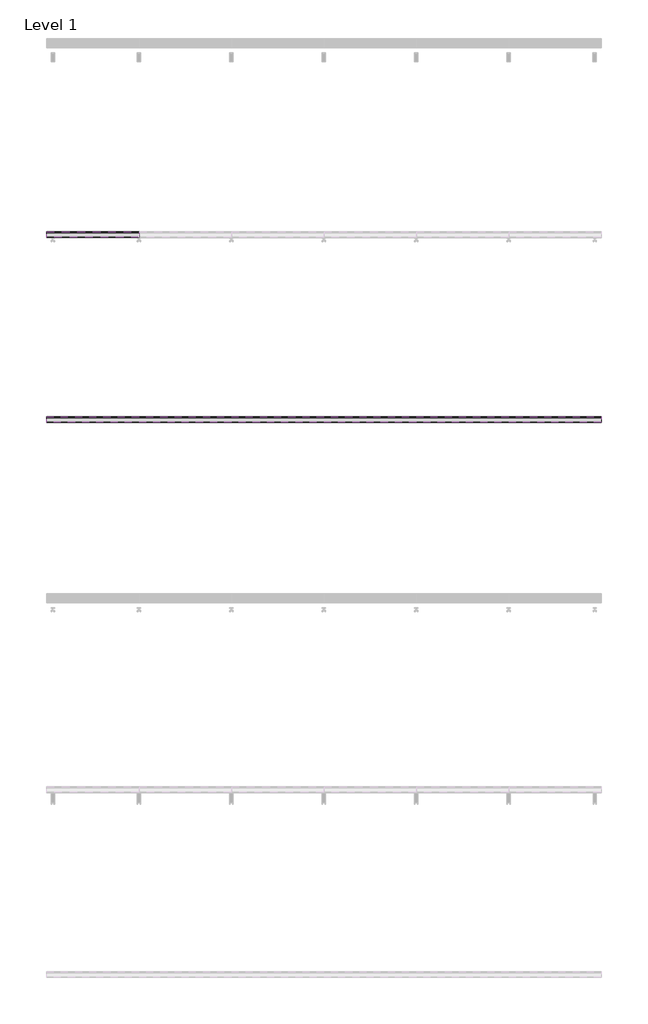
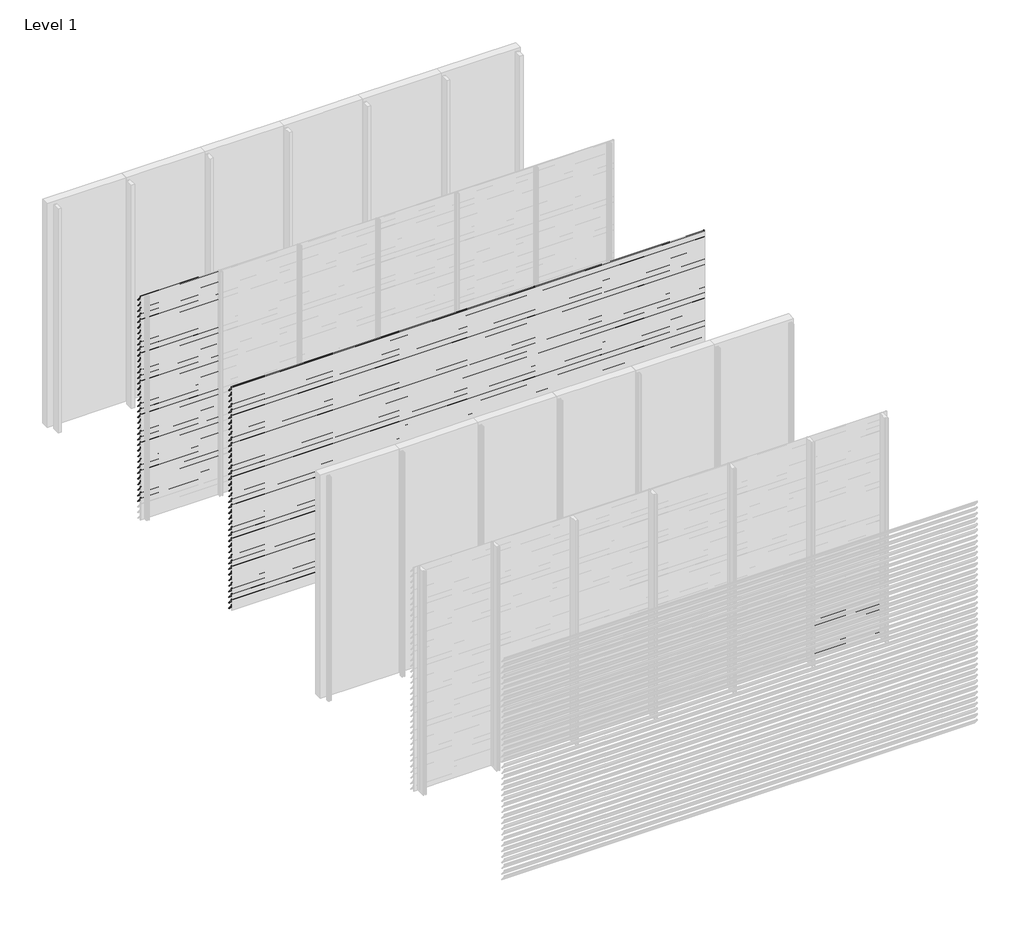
# One storey, part 10 of 35: 86 proxies.
"""IFC4 building model written with IfcOpenShell, lengths in millimetres."""

from ifc_helpers import new_model, si_unit, frame, origin, place, context, project, spatial, polyline, outline, extrude, element, save

model = new_model("IFC4")

# Units and contexts
model_context = context("Model", 3, world=origin())
ifc_project = project(units=[si_unit("LENGTHUNIT", "METRE", prefix="MILLI")], contexts=[model_context])

# Site, building, storey
site = spatial("IfcSite", under=ifc_project)
building = spatial("IfcBuilding", under=site)
storey = spatial("IfcBuildingStorey", under=building, Name="Level 1", Elevation=0.0)

# Proxies
placement = place(None, origin())
element("IfcBuildingElementProxy", 1, Name="Wall Sweeps", at=placement, inside=storey, context=model_context, shape_type="SweptSolid", body=[
    extrude(outline(polyline([(-41996.5, 3000.0), (-41996.5, 2985.5463701), (-41934.5, 2913.9330051), (-41934.5, 2910.4), (-41936.0, 2910.4), (-41936.0, 2913.3738975), (-41998.0, 2984.9872626), (-41998.0, 3000.0), (-41996.5, 3000.0)])), frame((0.0, 0.0, 0.0), z_axis=(1.0, 0.0, 0.0), x_axis=(0.0, 1.0, 0.0)), (0.0, 0.0, 1.0), 1000.0),
])
element("IfcBuildingElementProxy", 2, Name="Wall Sweeps", at=placement, inside=storey, context=model_context, shape_type="SweptSolid", body=[
    extrude(outline(polyline([(-41996.5, 2925.0), (-41996.5, 2910.5463701), (-41934.5, 2838.9330051), (-41934.5, 2835.4), (-41936.0, 2835.4), (-41936.0, 2838.3738975), (-41998.0, 2909.9872626), (-41998.0, 2925.0), (-41996.5, 2925.0)])), frame((0.0, 0.0, 0.0), z_axis=(1.0, 0.0, 0.0), x_axis=(0.0, 1.0, 0.0)), (0.0, 0.0, 1.0), 1000.0),
])
element("IfcBuildingElementProxy", 3, Name="Wall Sweeps", at=placement, inside=storey, context=model_context, shape_type="SweptSolid", body=[
    extrude(outline(polyline([(-41996.5, 2850.0), (-41996.5, 2835.5463701), (-41934.5, 2763.9330051), (-41934.5, 2760.4), (-41936.0, 2760.4), (-41936.0, 2763.3738975), (-41998.0, 2834.9872626), (-41998.0, 2850.0), (-41996.5, 2850.0)])), frame((0.0, 0.0, 0.0), z_axis=(1.0, 0.0, 0.0), x_axis=(0.0, 1.0, 0.0)), (0.0, 0.0, 1.0), 1000.0),
])
element("IfcBuildingElementProxy", 4, Name="Wall Sweeps", at=placement, inside=storey, context=model_context, shape_type="SweptSolid", body=[
    extrude(outline(polyline([(-41996.5, 2775.0), (-41996.5, 2760.5463701), (-41934.5, 2688.9330051), (-41934.5, 2685.4), (-41936.0, 2685.4), (-41936.0, 2688.3738975), (-41998.0, 2759.9872626), (-41998.0, 2775.0), (-41996.5, 2775.0)])), frame((0.0, 0.0, 0.0), z_axis=(1.0, 0.0, 0.0), x_axis=(0.0, 1.0, 0.0)), (0.0, 0.0, 1.0), 1000.0),
])
element("IfcBuildingElementProxy", 5, Name="Wall Sweeps", at=placement, inside=storey, context=model_context, shape_type="SweptSolid", body=[
    extrude(outline(polyline([(-41996.5, 2700.0), (-41996.5, 2685.5463701), (-41934.5, 2613.9330051), (-41934.5, 2610.4), (-41936.0, 2610.4), (-41936.0, 2613.3738975), (-41998.0, 2684.9872626), (-41998.0, 2700.0), (-41996.5, 2700.0)])), frame((0.0, 0.0, 0.0), z_axis=(1.0, 0.0, 0.0), x_axis=(0.0, 1.0, 0.0)), (0.0, 0.0, 1.0), 1000.0),
])
element("IfcBuildingElementProxy", 6, Name="Wall Sweeps", at=placement, inside=storey, context=model_context, shape_type="SweptSolid", body=[
    extrude(outline(polyline([(-41996.5, 2625.0), (-41996.5, 2610.5463701), (-41934.5, 2538.9330051), (-41934.5, 2535.4), (-41936.0, 2535.4), (-41936.0, 2538.3738975), (-41998.0, 2609.9872626), (-41998.0, 2625.0), (-41996.5, 2625.0)])), frame((0.0, 0.0, 0.0), z_axis=(1.0, 0.0, 0.0), x_axis=(0.0, 1.0, 0.0)), (0.0, 0.0, 1.0), 1000.0),
])
element("IfcBuildingElementProxy", 7, Name="Wall Sweeps", at=placement, inside=storey, context=model_context, shape_type="SweptSolid", body=[
    extrude(outline(polyline([(-41996.5, 2550.0), (-41996.5, 2535.5463701), (-41934.5, 2463.9330051), (-41934.5, 2460.4), (-41936.0, 2460.4), (-41936.0, 2463.3738975), (-41998.0, 2534.9872626), (-41998.0, 2550.0), (-41996.5, 2550.0)])), frame((0.0, 0.0, 0.0), z_axis=(1.0, 0.0, 0.0), x_axis=(0.0, 1.0, 0.0)), (0.0, 0.0, 1.0), 1000.0),
])
element("IfcBuildingElementProxy", 8, Name="Wall Sweeps", at=placement, inside=storey, context=model_context, shape_type="SweptSolid", body=[
    extrude(outline(polyline([(-41996.5, 2475.0), (-41996.5, 2460.5463701), (-41934.5, 2388.9330051), (-41934.5, 2385.4), (-41936.0, 2385.4), (-41936.0, 2388.3738975), (-41998.0, 2459.9872626), (-41998.0, 2475.0), (-41996.5, 2475.0)])), frame((0.0, 0.0, 0.0), z_axis=(1.0, 0.0, 0.0), x_axis=(0.0, 1.0, 0.0)), (0.0, 0.0, 1.0), 1000.0),
])
element("IfcBuildingElementProxy", 9, Name="Wall Sweeps", at=placement, inside=storey, context=model_context, shape_type="SweptSolid", body=[
    extrude(outline(polyline([(-41996.5, 2400.0), (-41996.5, 2385.5463701), (-41934.5, 2313.9330051), (-41934.5, 2310.4), (-41936.0, 2310.4), (-41936.0, 2313.3738975), (-41998.0, 2384.9872626), (-41998.0, 2400.0), (-41996.5, 2400.0)])), frame((0.0, 0.0, 0.0), z_axis=(1.0, 0.0, 0.0), x_axis=(0.0, 1.0, 0.0)), (0.0, 0.0, 1.0), 1000.0),
])
element("IfcBuildingElementProxy", 10, Name="Wall Sweeps", at=placement, inside=storey, context=model_context, shape_type="SweptSolid", body=[
    extrude(outline(polyline([(-41996.5, 2325.0), (-41996.5, 2310.5463701), (-41934.5, 2238.9330051), (-41934.5, 2235.4), (-41936.0, 2235.4), (-41936.0, 2238.3738975), (-41998.0, 2309.9872626), (-41998.0, 2325.0), (-41996.5, 2325.0)])), frame((0.0, 0.0, 0.0), z_axis=(1.0, 0.0, 0.0), x_axis=(0.0, 1.0, 0.0)), (0.0, 0.0, 1.0), 1000.0),
])
element("IfcBuildingElementProxy", 11, Name="Wall Sweeps", at=placement, inside=storey, context=model_context, shape_type="SweptSolid", body=[
    extrude(outline(polyline([(-41996.5, 2250.0), (-41996.5, 2235.5463701), (-41934.5, 2163.9330051), (-41934.5, 2160.4), (-41936.0, 2160.4), (-41936.0, 2163.3738975), (-41998.0, 2234.9872626), (-41998.0, 2250.0), (-41996.5, 2250.0)])), frame((0.0, 0.0, 0.0), z_axis=(1.0, 0.0, 0.0), x_axis=(0.0, 1.0, 0.0)), (0.0, 0.0, 1.0), 1000.0),
])
element("IfcBuildingElementProxy", 12, Name="Wall Sweeps", at=placement, inside=storey, context=model_context, shape_type="SweptSolid", body=[
    extrude(outline(polyline([(-41996.5, 2175.0), (-41996.5, 2160.5463701), (-41934.5, 2088.9330051), (-41934.5, 2085.4), (-41936.0, 2085.4), (-41936.0, 2088.3738975), (-41998.0, 2159.9872626), (-41998.0, 2175.0), (-41996.5, 2175.0)])), frame((0.0, 0.0, 0.0), z_axis=(1.0, 0.0, 0.0), x_axis=(0.0, 1.0, 0.0)), (0.0, 0.0, 1.0), 1000.0),
])
element("IfcBuildingElementProxy", 13, Name="Wall Sweeps", at=placement, inside=storey, context=model_context, shape_type="SweptSolid", body=[
    extrude(outline(polyline([(-41996.5, 2100.0), (-41996.5, 2085.5463701), (-41934.5, 2013.9330051), (-41934.5, 2010.4), (-41936.0, 2010.4), (-41936.0, 2013.3738975), (-41998.0, 2084.9872626), (-41998.0, 2100.0), (-41996.5, 2100.0)])), frame((0.0, 0.0, 0.0), z_axis=(1.0, 0.0, 0.0), x_axis=(0.0, 1.0, 0.0)), (0.0, 0.0, 1.0), 1000.0),
])
element("IfcBuildingElementProxy", 14, Name="Wall Sweeps", at=placement, inside=storey, context=model_context, shape_type="SweptSolid", body=[
    extrude(outline(polyline([(-41996.5, 2025.0), (-41996.5, 2010.5463701), (-41934.5, 1938.9330051), (-41934.5, 1935.4), (-41936.0, 1935.4), (-41936.0, 1938.3738975), (-41998.0, 2009.9872626), (-41998.0, 2025.0), (-41996.5, 2025.0)])), frame((0.0, 0.0, 0.0), z_axis=(1.0, 0.0, 0.0), x_axis=(0.0, 1.0, 0.0)), (0.0, 0.0, 1.0), 1000.0),
])
element("IfcBuildingElementProxy", 15, Name="Wall Sweeps", at=placement, inside=storey, context=model_context, shape_type="SweptSolid", body=[
    extrude(outline(polyline([(-41996.5, 1950.0), (-41996.5, 1935.5463701), (-41934.5, 1863.9330051), (-41934.5, 1860.4), (-41936.0, 1860.4), (-41936.0, 1863.3738975), (-41998.0, 1934.9872626), (-41998.0, 1950.0), (-41996.5, 1950.0)])), frame((0.0, 0.0, 0.0), z_axis=(1.0, 0.0, 0.0), x_axis=(0.0, 1.0, 0.0)), (0.0, 0.0, 1.0), 1000.0),
])
element("IfcBuildingElementProxy", 16, Name="Wall Sweeps", at=placement, inside=storey, context=model_context, shape_type="SweptSolid", body=[
    extrude(outline(polyline([(-41996.5, 1875.0), (-41996.5, 1860.5463701), (-41934.5, 1788.9330051), (-41934.5, 1785.4), (-41936.0, 1785.4), (-41936.0, 1788.3738975), (-41998.0, 1859.9872626), (-41998.0, 1875.0), (-41996.5, 1875.0)])), frame((0.0, 0.0, 0.0), z_axis=(1.0, 0.0, 0.0), x_axis=(0.0, 1.0, 0.0)), (0.0, 0.0, 1.0), 1000.0),
])
element("IfcBuildingElementProxy", 17, Name="Wall Sweeps", at=placement, inside=storey, context=model_context, shape_type="SweptSolid", body=[
    extrude(outline(polyline([(-41996.5, 1800.0), (-41996.5, 1785.5463701), (-41934.5, 1713.9330051), (-41934.5, 1710.4), (-41936.0, 1710.4), (-41936.0, 1713.3738975), (-41998.0, 1784.9872626), (-41998.0, 1800.0), (-41996.5, 1800.0)])), frame((0.0, 0.0, 0.0), z_axis=(1.0, 0.0, 0.0), x_axis=(0.0, 1.0, 0.0)), (0.0, 0.0, 1.0), 1000.0),
])
element("IfcBuildingElementProxy", 18, Name="Wall Sweeps", at=placement, inside=storey, context=model_context, shape_type="SweptSolid", body=[
    extrude(outline(polyline([(-41996.5, 1725.0), (-41996.5, 1710.5463701), (-41934.5, 1638.9330051), (-41934.5, 1635.4), (-41936.0, 1635.4), (-41936.0, 1638.3738975), (-41998.0, 1709.9872626), (-41998.0, 1725.0), (-41996.5, 1725.0)])), frame((0.0, 0.0, 0.0), z_axis=(1.0, 0.0, 0.0), x_axis=(0.0, 1.0, 0.0)), (0.0, 0.0, 1.0), 1000.0),
])
element("IfcBuildingElementProxy", 19, Name="Wall Sweeps", at=placement, inside=storey, context=model_context, shape_type="SweptSolid", body=[
    extrude(outline(polyline([(-41996.5, 1650.0), (-41996.5, 1635.5463701), (-41934.5, 1563.9330051), (-41934.5, 1560.4), (-41936.0, 1560.4), (-41936.0, 1563.3738975), (-41998.0, 1634.9872626), (-41998.0, 1650.0), (-41996.5, 1650.0)])), frame((0.0, 0.0, 0.0), z_axis=(1.0, 0.0, 0.0), x_axis=(0.0, 1.0, 0.0)), (0.0, 0.0, 1.0), 1000.0),
])
element("IfcBuildingElementProxy", 20, Name="Wall Sweeps", at=placement, inside=storey, context=model_context, shape_type="SweptSolid", body=[
    extrude(outline(polyline([(-41996.5, 1575.0), (-41996.5, 1560.5463701), (-41934.5, 1488.9330051), (-41934.5, 1485.4), (-41936.0, 1485.4), (-41936.0, 1488.3738975), (-41998.0, 1559.9872626), (-41998.0, 1575.0), (-41996.5, 1575.0)])), frame((0.0, 0.0, 0.0), z_axis=(1.0, 0.0, 0.0), x_axis=(0.0, 1.0, 0.0)), (0.0, 0.0, 1.0), 1000.0),
])
element("IfcBuildingElementProxy", 21, Name="Wall Sweeps", at=placement, inside=storey, context=model_context, shape_type="SweptSolid", body=[
    extrude(outline(polyline([(-41996.5, 1500.0), (-41996.5, 1485.5463701), (-41934.5, 1413.9330051), (-41934.5, 1410.4), (-41936.0, 1410.4), (-41936.0, 1413.3738975), (-41998.0, 1484.9872626), (-41998.0, 1500.0), (-41996.5, 1500.0)])), frame((0.0, 0.0, 0.0), z_axis=(1.0, 0.0, 0.0), x_axis=(0.0, 1.0, 0.0)), (0.0, 0.0, 1.0), 1000.0),
])
element("IfcBuildingElementProxy", 22, Name="Wall Sweeps", at=placement, inside=storey, context=model_context, shape_type="SweptSolid", body=[
    extrude(outline(polyline([(-41996.5, 1425.0), (-41996.5, 1410.5463701), (-41934.5, 1338.9330051), (-41934.5, 1335.4), (-41936.0, 1335.4), (-41936.0, 1338.3738975), (-41998.0, 1409.9872626), (-41998.0, 1425.0), (-41996.5, 1425.0)])), frame((0.0, 0.0, 0.0), z_axis=(1.0, 0.0, 0.0), x_axis=(0.0, 1.0, 0.0)), (0.0, 0.0, 1.0), 1000.0),
])
element("IfcBuildingElementProxy", 23, Name="Wall Sweeps", at=placement, inside=storey, context=model_context, shape_type="SweptSolid", body=[
    extrude(outline(polyline([(-41996.5, 1350.0), (-41996.5, 1335.5463701), (-41934.5, 1263.9330051), (-41934.5, 1260.4), (-41936.0, 1260.4), (-41936.0, 1263.3738975), (-41998.0, 1334.9872626), (-41998.0, 1350.0), (-41996.5, 1350.0)])), frame((0.0, 0.0, 0.0), z_axis=(1.0, 0.0, 0.0), x_axis=(0.0, 1.0, 0.0)), (0.0, 0.0, 1.0), 1000.0),
])
element("IfcBuildingElementProxy", 24, Name="Wall Sweeps", at=placement, inside=storey, context=model_context, shape_type="SweptSolid", body=[
    extrude(outline(polyline([(-41996.5, 1275.0), (-41996.5, 1260.5463701), (-41934.5, 1188.9330051), (-41934.5, 1185.4), (-41936.0, 1185.4), (-41936.0, 1188.3738975), (-41998.0, 1259.9872626), (-41998.0, 1275.0), (-41996.5, 1275.0)])), frame((0.0, 0.0, 0.0), z_axis=(1.0, 0.0, 0.0), x_axis=(0.0, 1.0, 0.0)), (0.0, 0.0, 1.0), 1000.0),
])
element("IfcBuildingElementProxy", 25, Name="Wall Sweeps", at=placement, inside=storey, context=model_context, shape_type="SweptSolid", body=[
    extrude(outline(polyline([(-41996.5, 1200.0), (-41996.5, 1185.5463701), (-41934.5, 1113.9330051), (-41934.5, 1110.4), (-41936.0, 1110.4), (-41936.0, 1113.3738975), (-41998.0, 1184.9872626), (-41998.0, 1200.0), (-41996.5, 1200.0)])), frame((0.0, 0.0, 0.0), z_axis=(1.0, 0.0, 0.0), x_axis=(0.0, 1.0, 0.0)), (0.0, 0.0, 1.0), 1000.0),
])
element("IfcBuildingElementProxy", 26, Name="Wall Sweeps", at=placement, inside=storey, context=model_context, shape_type="SweptSolid", body=[
    extrude(outline(polyline([(-41996.5, 1125.0), (-41996.5, 1110.5463701), (-41934.5, 1038.9330051), (-41934.5, 1035.4), (-41936.0, 1035.4), (-41936.0, 1038.3738975), (-41998.0, 1109.9872626), (-41998.0, 1125.0), (-41996.5, 1125.0)])), frame((0.0, 0.0, 0.0), z_axis=(1.0, 0.0, 0.0), x_axis=(0.0, 1.0, 0.0)), (0.0, 0.0, 1.0), 1000.0),
])
element("IfcBuildingElementProxy", 27, Name="Wall Sweeps", at=placement, inside=storey, context=model_context, shape_type="SweptSolid", body=[
    extrude(outline(polyline([(-41996.5, 1050.0), (-41996.5, 1035.5463701), (-41934.5, 963.9330051), (-41934.5, 960.4), (-41936.0, 960.4), (-41936.0, 963.3738975), (-41998.0, 1034.9872626), (-41998.0, 1050.0), (-41996.5, 1050.0)])), frame((0.0, 0.0, 0.0), z_axis=(1.0, 0.0, 0.0), x_axis=(0.0, 1.0, 0.0)), (0.0, 0.0, 1.0), 1000.0),
])
element("IfcBuildingElementProxy", 28, Name="Wall Sweeps", at=placement, inside=storey, context=model_context, shape_type="SweptSolid", body=[
    extrude(outline(polyline([(-41996.5, 975.0), (-41996.5, 960.5463701), (-41934.5, 888.9330051), (-41934.5, 885.4), (-41936.0, 885.4), (-41936.0, 888.3738975), (-41998.0, 959.9872626), (-41998.0, 975.0), (-41996.5, 975.0)])), frame((0.0, 0.0, 0.0), z_axis=(1.0, 0.0, 0.0), x_axis=(0.0, 1.0, 0.0)), (0.0, 0.0, 1.0), 1000.0),
])
element("IfcBuildingElementProxy", 29, Name="Wall Sweeps", at=placement, inside=storey, context=model_context, shape_type="SweptSolid", body=[
    extrude(outline(polyline([(-41996.5, 900.0), (-41996.5, 885.5463701), (-41934.5, 813.9330051), (-41934.5, 810.4), (-41936.0, 810.4), (-41936.0, 813.3738975), (-41998.0, 884.9872626), (-41998.0, 900.0), (-41996.5, 900.0)])), frame((0.0, 0.0, 0.0), z_axis=(1.0, 0.0, 0.0), x_axis=(0.0, 1.0, 0.0)), (0.0, 0.0, 1.0), 1000.0),
])
element("IfcBuildingElementProxy", 30, Name="Wall Sweeps", at=placement, inside=storey, context=model_context, shape_type="SweptSolid", body=[
    extrude(outline(polyline([(-41996.5, 825.0), (-41996.5, 810.5463701), (-41934.5, 738.9330051), (-41934.5, 735.4), (-41936.0, 735.4), (-41936.0, 738.3738975), (-41998.0, 809.9872626), (-41998.0, 825.0), (-41996.5, 825.0)])), frame((0.0, 0.0, 0.0), z_axis=(1.0, 0.0, 0.0), x_axis=(0.0, 1.0, 0.0)), (0.0, 0.0, 1.0), 1000.0),
])
element("IfcBuildingElementProxy", 31, Name="Wall Sweeps", at=placement, inside=storey, context=model_context, shape_type="SweptSolid", body=[
    extrude(outline(polyline([(-41996.5, 750.0), (-41996.5, 735.5463701), (-41934.5, 663.9330051), (-41934.5, 660.4), (-41936.0, 660.4), (-41936.0, 663.3738975), (-41998.0, 734.9872626), (-41998.0, 750.0), (-41996.5, 750.0)])), frame((0.0, 0.0, 0.0), z_axis=(1.0, 0.0, 0.0), x_axis=(0.0, 1.0, 0.0)), (0.0, 0.0, 1.0), 1000.0),
])
element("IfcBuildingElementProxy", 32, Name="Wall Sweeps", at=placement, inside=storey, context=model_context, shape_type="SweptSolid", body=[
    extrude(outline(polyline([(-41996.5, 675.0), (-41996.5, 660.5463701), (-41934.5, 588.9330051), (-41934.5, 585.4), (-41936.0, 585.4), (-41936.0, 588.3738975), (-41998.0, 659.9872626), (-41998.0, 675.0), (-41996.5, 675.0)])), frame((0.0, 0.0, 0.0), z_axis=(1.0, 0.0, 0.0), x_axis=(0.0, 1.0, 0.0)), (0.0, 0.0, 1.0), 1000.0),
])
element("IfcBuildingElementProxy", 33, Name="Wall Sweeps", at=placement, inside=storey, context=model_context, shape_type="SweptSolid", body=[
    extrude(outline(polyline([(-41996.5, 600.0), (-41996.5, 585.5463701), (-41934.5, 513.9330051), (-41934.5, 510.4), (-41936.0, 510.4), (-41936.0, 513.3738975), (-41998.0, 584.9872626), (-41998.0, 600.0), (-41996.5, 600.0)])), frame((0.0, 0.0, 0.0), z_axis=(1.0, 0.0, 0.0), x_axis=(0.0, 1.0, 0.0)), (0.0, 0.0, 1.0), 1000.0),
])
element("IfcBuildingElementProxy", 34, Name="Wall Sweeps", at=placement, inside=storey, context=model_context, shape_type="SweptSolid", body=[
    extrude(outline(polyline([(-41996.5, 525.0), (-41996.5, 510.5463701), (-41934.5, 438.9330051), (-41934.5, 435.4), (-41936.0, 435.4), (-41936.0, 438.3738975), (-41998.0, 509.9872626), (-41998.0, 525.0), (-41996.5, 525.0)])), frame((0.0, 0.0, 0.0), z_axis=(1.0, 0.0, 0.0), x_axis=(0.0, 1.0, 0.0)), (0.0, 0.0, 1.0), 1000.0),
])
element("IfcBuildingElementProxy", 35, Name="Wall Sweeps", at=placement, inside=storey, context=model_context, shape_type="SweptSolid", body=[
    extrude(outline(polyline([(-41996.5, 450.0), (-41996.5, 435.5463701), (-41934.5, 363.9330051), (-41934.5, 360.4), (-41936.0, 360.4), (-41936.0, 363.3738975), (-41998.0, 434.9872626), (-41998.0, 450.0), (-41996.5, 450.0)])), frame((0.0, 0.0, 0.0), z_axis=(1.0, 0.0, 0.0), x_axis=(0.0, 1.0, 0.0)), (0.0, 0.0, 1.0), 1000.0),
])
element("IfcBuildingElementProxy", 36, Name="Wall Sweeps", at=placement, inside=storey, context=model_context, shape_type="SweptSolid", body=[
    extrude(outline(polyline([(-41996.5, 375.0), (-41996.5, 360.5463701), (-41934.5, 288.9330051), (-41934.5, 285.4), (-41936.0, 285.4), (-41936.0, 288.3738975), (-41998.0, 359.9872626), (-41998.0, 375.0), (-41996.5, 375.0)])), frame((0.0, 0.0, 0.0), z_axis=(1.0, 0.0, 0.0), x_axis=(0.0, 1.0, 0.0)), (0.0, 0.0, 1.0), 1000.0),
])
element("IfcBuildingElementProxy", 37, Name="Wall Sweeps", at=placement, inside=storey, context=model_context, shape_type="SweptSolid", body=[
    extrude(outline(polyline([(-41996.5, 300.0), (-41996.5, 285.5463701), (-41934.5, 213.9330051), (-41934.5, 210.4), (-41936.0, 210.4), (-41936.0, 213.3738975), (-41998.0, 284.9872626), (-41998.0, 300.0), (-41996.5, 300.0)])), frame((0.0, 0.0, 0.0), z_axis=(1.0, 0.0, 0.0), x_axis=(0.0, 1.0, 0.0)), (0.0, 0.0, 1.0), 1000.0),
])
element("IfcBuildingElementProxy", 38, Name="Wall Sweeps", at=placement, inside=storey, context=model_context, shape_type="SweptSolid", body=[
    extrude(outline(polyline([(-43996.5, 3000.0), (-43996.5, 2985.5463701), (-43934.5, 2913.9330051), (-43934.5, 2910.4), (-43936.0, 2910.4), (-43936.0, 2913.3738975), (-43998.0, 2984.9872626), (-43998.0, 3000.0), (-43996.5, 3000.0)])), frame((0.0, 0.0, 0.0), z_axis=(1.0, 0.0, 0.0), x_axis=(0.0, 1.0, 0.0)), (0.0, 0.0, 1.0), 6000.0),
])
element("IfcBuildingElementProxy", 39, Name="Wall Sweeps", at=placement, inside=storey, context=model_context, shape_type="SweptSolid", body=[
    extrude(outline(polyline([(-43996.5, 2925.0), (-43996.5, 2910.5463701), (-43934.5, 2838.9330051), (-43934.5, 2835.4), (-43936.0, 2835.4), (-43936.0, 2838.3738975), (-43998.0, 2909.9872626), (-43998.0, 2925.0), (-43996.5, 2925.0)])), frame((0.0, 0.0, 0.0), z_axis=(1.0, 0.0, 0.0), x_axis=(0.0, 1.0, 0.0)), (0.0, 0.0, 1.0), 6000.0),
])
element("IfcBuildingElementProxy", 40, Name="Wall Sweeps", at=placement, inside=storey, context=model_context, shape_type="SweptSolid", body=[
    extrude(outline(polyline([(-43996.5, 2850.0), (-43996.5, 2835.5463701), (-43934.5, 2763.9330051), (-43934.5, 2760.4), (-43936.0, 2760.4), (-43936.0, 2763.3738975), (-43998.0, 2834.9872626), (-43998.0, 2850.0), (-43996.5, 2850.0)])), frame((0.0, 0.0, 0.0), z_axis=(1.0, 0.0, 0.0), x_axis=(0.0, 1.0, 0.0)), (0.0, 0.0, 1.0), 6000.0),
])
element("IfcBuildingElementProxy", 41, Name="Wall Sweeps", at=placement, inside=storey, context=model_context, shape_type="SweptSolid", body=[
    extrude(outline(polyline([(-43996.5, 2775.0), (-43996.5, 2760.5463701), (-43934.5, 2688.9330051), (-43934.5, 2685.4), (-43936.0, 2685.4), (-43936.0, 2688.3738975), (-43998.0, 2759.9872626), (-43998.0, 2775.0), (-43996.5, 2775.0)])), frame((0.0, 0.0, 0.0), z_axis=(1.0, 0.0, 0.0), x_axis=(0.0, 1.0, 0.0)), (0.0, 0.0, 1.0), 6000.0),
])
element("IfcBuildingElementProxy", 42, Name="Wall Sweeps", at=placement, inside=storey, context=model_context, shape_type="SweptSolid", body=[
    extrude(outline(polyline([(-43996.5, 2700.0), (-43996.5, 2685.5463701), (-43934.5, 2613.9330051), (-43934.5, 2610.4), (-43936.0, 2610.4), (-43936.0, 2613.3738975), (-43998.0, 2684.9872626), (-43998.0, 2700.0), (-43996.5, 2700.0)])), frame((0.0, 0.0, 0.0), z_axis=(1.0, 0.0, 0.0), x_axis=(0.0, 1.0, 0.0)), (0.0, 0.0, 1.0), 6000.0),
])
element("IfcBuildingElementProxy", 43, Name="Wall Sweeps", at=placement, inside=storey, context=model_context, shape_type="SweptSolid", body=[
    extrude(outline(polyline([(-43996.5, 2625.0), (-43996.5, 2610.5463701), (-43934.5, 2538.9330051), (-43934.5, 2535.4), (-43936.0, 2535.4), (-43936.0, 2538.3738975), (-43998.0, 2609.9872626), (-43998.0, 2625.0), (-43996.5, 2625.0)])), frame((0.0, 0.0, 0.0), z_axis=(1.0, 0.0, 0.0), x_axis=(0.0, 1.0, 0.0)), (0.0, 0.0, 1.0), 6000.0),
])
element("IfcBuildingElementProxy", 44, Name="Wall Sweeps", at=placement, inside=storey, context=model_context, shape_type="SweptSolid", body=[
    extrude(outline(polyline([(-43996.5, 2550.0), (-43996.5, 2535.5463701), (-43934.5, 2463.9330051), (-43934.5, 2460.4), (-43936.0, 2460.4), (-43936.0, 2463.3738975), (-43998.0, 2534.9872626), (-43998.0, 2550.0), (-43996.5, 2550.0)])), frame((0.0, 0.0, 0.0), z_axis=(1.0, 0.0, 0.0), x_axis=(0.0, 1.0, 0.0)), (0.0, 0.0, 1.0), 6000.0),
])
element("IfcBuildingElementProxy", 45, Name="Wall Sweeps", at=placement, inside=storey, context=model_context, shape_type="SweptSolid", body=[
    extrude(outline(polyline([(-43996.5, 2475.0), (-43996.5, 2460.5463701), (-43934.5, 2388.9330051), (-43934.5, 2385.4), (-43936.0, 2385.4), (-43936.0, 2388.3738975), (-43998.0, 2459.9872626), (-43998.0, 2475.0), (-43996.5, 2475.0)])), frame((0.0, 0.0, 0.0), z_axis=(1.0, 0.0, 0.0), x_axis=(0.0, 1.0, 0.0)), (0.0, 0.0, 1.0), 6000.0),
])
element("IfcBuildingElementProxy", 46, Name="Wall Sweeps", at=placement, inside=storey, context=model_context, shape_type="SweptSolid", body=[
    extrude(outline(polyline([(-43996.5, 2400.0), (-43996.5, 2385.5463701), (-43934.5, 2313.9330051), (-43934.5, 2310.4), (-43936.0, 2310.4), (-43936.0, 2313.3738975), (-43998.0, 2384.9872626), (-43998.0, 2400.0), (-43996.5, 2400.0)])), frame((0.0, 0.0, 0.0), z_axis=(1.0, 0.0, 0.0), x_axis=(0.0, 1.0, 0.0)), (0.0, 0.0, 1.0), 6000.0),
])
element("IfcBuildingElementProxy", 47, Name="Wall Sweeps", at=placement, inside=storey, context=model_context, shape_type="SweptSolid", body=[
    extrude(outline(polyline([(-43996.5, 2325.0), (-43996.5, 2310.5463701), (-43934.5, 2238.9330051), (-43934.5, 2235.4), (-43936.0, 2235.4), (-43936.0, 2238.3738975), (-43998.0, 2309.9872626), (-43998.0, 2325.0), (-43996.5, 2325.0)])), frame((0.0, 0.0, 0.0), z_axis=(1.0, 0.0, 0.0), x_axis=(0.0, 1.0, 0.0)), (0.0, 0.0, 1.0), 6000.0),
])
element("IfcBuildingElementProxy", 48, Name="Wall Sweeps", at=placement, inside=storey, context=model_context, shape_type="SweptSolid", body=[
    extrude(outline(polyline([(-43996.5, 2250.0), (-43996.5, 2235.5463701), (-43934.5, 2163.9330051), (-43934.5, 2160.4), (-43936.0, 2160.4), (-43936.0, 2163.3738975), (-43998.0, 2234.9872626), (-43998.0, 2250.0), (-43996.5, 2250.0)])), frame((0.0, 0.0, 0.0), z_axis=(1.0, 0.0, 0.0), x_axis=(0.0, 1.0, 0.0)), (0.0, 0.0, 1.0), 6000.0),
])
element("IfcBuildingElementProxy", 49, Name="Wall Sweeps", at=placement, inside=storey, context=model_context, shape_type="SweptSolid", body=[
    extrude(outline(polyline([(-43996.5, 2175.0), (-43996.5, 2160.5463701), (-43934.5, 2088.9330051), (-43934.5, 2085.4), (-43936.0, 2085.4), (-43936.0, 2088.3738975), (-43998.0, 2159.9872626), (-43998.0, 2175.0), (-43996.5, 2175.0)])), frame((0.0, 0.0, 0.0), z_axis=(1.0, 0.0, 0.0), x_axis=(0.0, 1.0, 0.0)), (0.0, 0.0, 1.0), 6000.0),
])
element("IfcBuildingElementProxy", 50, Name="Wall Sweeps", at=placement, inside=storey, context=model_context, shape_type="SweptSolid", body=[
    extrude(outline(polyline([(-43996.5, 2100.0), (-43996.5, 2085.5463701), (-43934.5, 2013.9330051), (-43934.5, 2010.4), (-43936.0, 2010.4), (-43936.0, 2013.3738975), (-43998.0, 2084.9872626), (-43998.0, 2100.0), (-43996.5, 2100.0)])), frame((0.0, 0.0, 0.0), z_axis=(1.0, 0.0, 0.0), x_axis=(0.0, 1.0, 0.0)), (0.0, 0.0, 1.0), 6000.0),
])
element("IfcBuildingElementProxy", 51, Name="Wall Sweeps", at=placement, inside=storey, context=model_context, shape_type="SweptSolid", body=[
    extrude(outline(polyline([(-43996.5, 2025.0), (-43996.5, 2010.5463701), (-43934.5, 1938.9330051), (-43934.5, 1935.4), (-43936.0, 1935.4), (-43936.0, 1938.3738975), (-43998.0, 2009.9872626), (-43998.0, 2025.0), (-43996.5, 2025.0)])), frame((0.0, 0.0, 0.0), z_axis=(1.0, 0.0, 0.0), x_axis=(0.0, 1.0, 0.0)), (0.0, 0.0, 1.0), 6000.0),
])
element("IfcBuildingElementProxy", 52, Name="Wall Sweeps", at=placement, inside=storey, context=model_context, shape_type="SweptSolid", body=[
    extrude(outline(polyline([(-43996.5, 1950.0), (-43996.5, 1935.5463701), (-43934.5, 1863.9330051), (-43934.5, 1860.4), (-43936.0, 1860.4), (-43936.0, 1863.3738975), (-43998.0, 1934.9872626), (-43998.0, 1950.0), (-43996.5, 1950.0)])), frame((0.0, 0.0, 0.0), z_axis=(1.0, 0.0, 0.0), x_axis=(0.0, 1.0, 0.0)), (0.0, 0.0, 1.0), 6000.0),
])
element("IfcBuildingElementProxy", 53, Name="Wall Sweeps", at=placement, inside=storey, context=model_context, shape_type="SweptSolid", body=[
    extrude(outline(polyline([(-43996.5, 1875.0), (-43996.5, 1860.5463701), (-43934.5, 1788.9330051), (-43934.5, 1785.4), (-43936.0, 1785.4), (-43936.0, 1788.3738975), (-43998.0, 1859.9872626), (-43998.0, 1875.0), (-43996.5, 1875.0)])), frame((0.0, 0.0, 0.0), z_axis=(1.0, 0.0, 0.0), x_axis=(0.0, 1.0, 0.0)), (0.0, 0.0, 1.0), 6000.0),
])
element("IfcBuildingElementProxy", 54, Name="Wall Sweeps", at=placement, inside=storey, context=model_context, shape_type="SweptSolid", body=[
    extrude(outline(polyline([(-43996.5, 1800.0), (-43996.5, 1785.5463701), (-43934.5, 1713.9330051), (-43934.5, 1710.4), (-43936.0, 1710.4), (-43936.0, 1713.3738975), (-43998.0, 1784.9872626), (-43998.0, 1800.0), (-43996.5, 1800.0)])), frame((0.0, 0.0, 0.0), z_axis=(1.0, 0.0, 0.0), x_axis=(0.0, 1.0, 0.0)), (0.0, 0.0, 1.0), 6000.0),
])
element("IfcBuildingElementProxy", 55, Name="Wall Sweeps", at=placement, inside=storey, context=model_context, shape_type="SweptSolid", body=[
    extrude(outline(polyline([(-43996.5, 1725.0), (-43996.5, 1710.5463701), (-43934.5, 1638.9330051), (-43934.5, 1635.4), (-43936.0, 1635.4), (-43936.0, 1638.3738975), (-43998.0, 1709.9872626), (-43998.0, 1725.0), (-43996.5, 1725.0)])), frame((0.0, 0.0, 0.0), z_axis=(1.0, 0.0, 0.0), x_axis=(0.0, 1.0, 0.0)), (0.0, 0.0, 1.0), 6000.0),
])
element("IfcBuildingElementProxy", 56, Name="Wall Sweeps", at=placement, inside=storey, context=model_context, shape_type="SweptSolid", body=[
    extrude(outline(polyline([(-43996.5, 1650.0), (-43996.5, 1635.5463701), (-43934.5, 1563.9330051), (-43934.5, 1560.4), (-43936.0, 1560.4), (-43936.0, 1563.3738975), (-43998.0, 1634.9872626), (-43998.0, 1650.0), (-43996.5, 1650.0)])), frame((0.0, 0.0, 0.0), z_axis=(1.0, 0.0, 0.0), x_axis=(0.0, 1.0, 0.0)), (0.0, 0.0, 1.0), 6000.0),
])
element("IfcBuildingElementProxy", 57, Name="Wall Sweeps", at=placement, inside=storey, context=model_context, shape_type="SweptSolid", body=[
    extrude(outline(polyline([(-43996.5, 1575.0), (-43996.5, 1560.5463701), (-43934.5, 1488.9330051), (-43934.5, 1485.4), (-43936.0, 1485.4), (-43936.0, 1488.3738975), (-43998.0, 1559.9872626), (-43998.0, 1575.0), (-43996.5, 1575.0)])), frame((0.0, 0.0, 0.0), z_axis=(1.0, 0.0, 0.0), x_axis=(0.0, 1.0, 0.0)), (0.0, 0.0, 1.0), 6000.0),
])
element("IfcBuildingElementProxy", 58, Name="Wall Sweeps", at=placement, inside=storey, context=model_context, shape_type="SweptSolid", body=[
    extrude(outline(polyline([(-43996.5, 1500.0), (-43996.5, 1485.5463701), (-43934.5, 1413.9330051), (-43934.5, 1410.4), (-43936.0, 1410.4), (-43936.0, 1413.3738975), (-43998.0, 1484.9872626), (-43998.0, 1500.0), (-43996.5, 1500.0)])), frame((0.0, 0.0, 0.0), z_axis=(1.0, 0.0, 0.0), x_axis=(0.0, 1.0, 0.0)), (0.0, 0.0, 1.0), 6000.0),
])
element("IfcBuildingElementProxy", 59, Name="Wall Sweeps", at=placement, inside=storey, context=model_context, shape_type="SweptSolid", body=[
    extrude(outline(polyline([(-43996.5, 1425.0), (-43996.5, 1410.5463701), (-43934.5, 1338.9330051), (-43934.5, 1335.4), (-43936.0, 1335.4), (-43936.0, 1338.3738975), (-43998.0, 1409.9872626), (-43998.0, 1425.0), (-43996.5, 1425.0)])), frame((0.0, 0.0, 0.0), z_axis=(1.0, 0.0, 0.0), x_axis=(0.0, 1.0, 0.0)), (0.0, 0.0, 1.0), 6000.0),
])
element("IfcBuildingElementProxy", 60, Name="Wall Sweeps", at=placement, inside=storey, context=model_context, shape_type="SweptSolid", body=[
    extrude(outline(polyline([(-43996.5, 1350.0), (-43996.5, 1335.5463701), (-43934.5, 1263.9330051), (-43934.5, 1260.4), (-43936.0, 1260.4), (-43936.0, 1263.3738975), (-43998.0, 1334.9872626), (-43998.0, 1350.0), (-43996.5, 1350.0)])), frame((0.0, 0.0, 0.0), z_axis=(1.0, 0.0, 0.0), x_axis=(0.0, 1.0, 0.0)), (0.0, 0.0, 1.0), 6000.0),
])
element("IfcBuildingElementProxy", 61, Name="Wall Sweeps", at=placement, inside=storey, context=model_context, shape_type="SweptSolid", body=[
    extrude(outline(polyline([(-43996.5, 1275.0), (-43996.5, 1260.5463701), (-43934.5, 1188.9330051), (-43934.5, 1185.4), (-43936.0, 1185.4), (-43936.0, 1188.3738975), (-43998.0, 1259.9872626), (-43998.0, 1275.0), (-43996.5, 1275.0)])), frame((0.0, 0.0, 0.0), z_axis=(1.0, 0.0, 0.0), x_axis=(0.0, 1.0, 0.0)), (0.0, 0.0, 1.0), 6000.0),
])
element("IfcBuildingElementProxy", 62, Name="Wall Sweeps", at=placement, inside=storey, context=model_context, shape_type="SweptSolid", body=[
    extrude(outline(polyline([(-43996.5, 1200.0), (-43996.5, 1185.5463701), (-43934.5, 1113.9330051), (-43934.5, 1110.4), (-43936.0, 1110.4), (-43936.0, 1113.3738975), (-43998.0, 1184.9872626), (-43998.0, 1200.0), (-43996.5, 1200.0)])), frame((0.0, 0.0, 0.0), z_axis=(1.0, 0.0, 0.0), x_axis=(0.0, 1.0, 0.0)), (0.0, 0.0, 1.0), 6000.0),
])
element("IfcBuildingElementProxy", 63, Name="Wall Sweeps", at=placement, inside=storey, context=model_context, shape_type="SweptSolid", body=[
    extrude(outline(polyline([(-43996.5, 1125.0), (-43996.5, 1110.5463701), (-43934.5, 1038.9330051), (-43934.5, 1035.4), (-43936.0, 1035.4), (-43936.0, 1038.3738975), (-43998.0, 1109.9872626), (-43998.0, 1125.0), (-43996.5, 1125.0)])), frame((0.0, 0.0, 0.0), z_axis=(1.0, 0.0, 0.0), x_axis=(0.0, 1.0, 0.0)), (0.0, 0.0, 1.0), 6000.0),
])
element("IfcBuildingElementProxy", 64, Name="Wall Sweeps", at=placement, inside=storey, context=model_context, shape_type="SweptSolid", body=[
    extrude(outline(polyline([(-43996.5, 1050.0), (-43996.5, 1035.5463701), (-43934.5, 963.9330051), (-43934.5, 960.4), (-43936.0, 960.4), (-43936.0, 963.3738975), (-43998.0, 1034.9872626), (-43998.0, 1050.0), (-43996.5, 1050.0)])), frame((0.0, 0.0, 0.0), z_axis=(1.0, 0.0, 0.0), x_axis=(0.0, 1.0, 0.0)), (0.0, 0.0, 1.0), 6000.0),
])
element("IfcBuildingElementProxy", 65, Name="Wall Sweeps", at=placement, inside=storey, context=model_context, shape_type="SweptSolid", body=[
    extrude(outline(polyline([(-43996.5, 975.0), (-43996.5, 960.5463701), (-43934.5, 888.9330051), (-43934.5, 885.4), (-43936.0, 885.4), (-43936.0, 888.3738975), (-43998.0, 959.9872626), (-43998.0, 975.0), (-43996.5, 975.0)])), frame((0.0, 0.0, 0.0), z_axis=(1.0, 0.0, 0.0), x_axis=(0.0, 1.0, 0.0)), (0.0, 0.0, 1.0), 6000.0),
])
element("IfcBuildingElementProxy", 66, Name="Wall Sweeps", at=placement, inside=storey, context=model_context, shape_type="SweptSolid", body=[
    extrude(outline(polyline([(-43996.5, 900.0), (-43996.5, 885.5463701), (-43934.5, 813.9330051), (-43934.5, 810.4), (-43936.0, 810.4), (-43936.0, 813.3738975), (-43998.0, 884.9872626), (-43998.0, 900.0), (-43996.5, 900.0)])), frame((0.0, 0.0, 0.0), z_axis=(1.0, 0.0, 0.0), x_axis=(0.0, 1.0, 0.0)), (0.0, 0.0, 1.0), 6000.0),
])
element("IfcBuildingElementProxy", 67, Name="Wall Sweeps", at=placement, inside=storey, context=model_context, shape_type="SweptSolid", body=[
    extrude(outline(polyline([(-43996.5, 825.0), (-43996.5, 810.5463701), (-43934.5, 738.9330051), (-43934.5, 735.4), (-43936.0, 735.4), (-43936.0, 738.3738975), (-43998.0, 809.9872626), (-43998.0, 825.0), (-43996.5, 825.0)])), frame((0.0, 0.0, 0.0), z_axis=(1.0, 0.0, 0.0), x_axis=(0.0, 1.0, 0.0)), (0.0, 0.0, 1.0), 6000.0),
])
element("IfcBuildingElementProxy", 68, Name="Wall Sweeps", at=placement, inside=storey, context=model_context, shape_type="SweptSolid", body=[
    extrude(outline(polyline([(-43996.5, 750.0), (-43996.5, 735.5463701), (-43934.5, 663.9330051), (-43934.5, 660.4), (-43936.0, 660.4), (-43936.0, 663.3738975), (-43998.0, 734.9872626), (-43998.0, 750.0), (-43996.5, 750.0)])), frame((0.0, 0.0, 0.0), z_axis=(1.0, 0.0, 0.0), x_axis=(0.0, 1.0, 0.0)), (0.0, 0.0, 1.0), 6000.0),
])
element("IfcBuildingElementProxy", 69, Name="Wall Sweeps", at=placement, inside=storey, context=model_context, shape_type="SweptSolid", body=[
    extrude(outline(polyline([(-43996.5, 675.0), (-43996.5, 660.5463701), (-43934.5, 588.9330051), (-43934.5, 585.4), (-43936.0, 585.4), (-43936.0, 588.3738975), (-43998.0, 659.9872626), (-43998.0, 675.0), (-43996.5, 675.0)])), frame((0.0, 0.0, 0.0), z_axis=(1.0, 0.0, 0.0), x_axis=(0.0, 1.0, 0.0)), (0.0, 0.0, 1.0), 6000.0),
])
element("IfcBuildingElementProxy", 70, Name="Wall Sweeps", at=placement, inside=storey, context=model_context, shape_type="SweptSolid", body=[
    extrude(outline(polyline([(-43996.5, 600.0), (-43996.5, 585.5463701), (-43934.5, 513.9330051), (-43934.5, 510.4), (-43936.0, 510.4), (-43936.0, 513.3738975), (-43998.0, 584.9872626), (-43998.0, 600.0), (-43996.5, 600.0)])), frame((0.0, 0.0, 0.0), z_axis=(1.0, 0.0, 0.0), x_axis=(0.0, 1.0, 0.0)), (0.0, 0.0, 1.0), 6000.0),
])
element("IfcBuildingElementProxy", 71, Name="Wall Sweeps", at=placement, inside=storey, context=model_context, shape_type="SweptSolid", body=[
    extrude(outline(polyline([(-43996.5, 525.0), (-43996.5, 510.5463701), (-43934.5, 438.9330051), (-43934.5, 435.4), (-43936.0, 435.4), (-43936.0, 438.3738975), (-43998.0, 509.9872626), (-43998.0, 525.0), (-43996.5, 525.0)])), frame((0.0, 0.0, 0.0), z_axis=(1.0, 0.0, 0.0), x_axis=(0.0, 1.0, 0.0)), (0.0, 0.0, 1.0), 6000.0),
])
element("IfcBuildingElementProxy", 72, Name="Wall Sweeps", at=placement, inside=storey, context=model_context, shape_type="SweptSolid", body=[
    extrude(outline(polyline([(-43996.5, 450.0), (-43996.5, 435.5463701), (-43934.5, 363.9330051), (-43934.5, 360.4), (-43936.0, 360.4), (-43936.0, 363.3738975), (-43998.0, 434.9872626), (-43998.0, 450.0), (-43996.5, 450.0)])), frame((0.0, 0.0, 0.0), z_axis=(1.0, 0.0, 0.0), x_axis=(0.0, 1.0, 0.0)), (0.0, 0.0, 1.0), 6000.0),
])
element("IfcBuildingElementProxy", 73, Name="Wall Sweeps", at=placement, inside=storey, context=model_context, shape_type="SweptSolid", body=[
    extrude(outline(polyline([(-43996.5, 375.0), (-43996.5, 360.5463701), (-43934.5, 288.9330051), (-43934.5, 285.4), (-43936.0, 285.4), (-43936.0, 288.3738975), (-43998.0, 359.9872626), (-43998.0, 375.0), (-43996.5, 375.0)])), frame((0.0, 0.0, 0.0), z_axis=(1.0, 0.0, 0.0), x_axis=(0.0, 1.0, 0.0)), (0.0, 0.0, 1.0), 6000.0),
])
element("IfcBuildingElementProxy", 74, Name="Wall Sweeps", at=placement, inside=storey, context=model_context, shape_type="SweptSolid", body=[
    extrude(outline(polyline([(-43996.5, 300.0), (-43996.5, 285.5463701), (-43934.5, 213.9330051), (-43934.5, 210.4), (-43936.0, 210.4), (-43936.0, 213.3738975), (-43998.0, 284.9872626), (-43998.0, 300.0), (-43996.5, 300.0)])), frame((0.0, 0.0, 0.0), z_axis=(1.0, 0.0, 0.0), x_axis=(0.0, 1.0, 0.0)), (0.0, 0.0, 1.0), 6000.0),
])
element("IfcBuildingElementProxy", 75, Name="Wall Sweeps", at=placement, inside=storey, context=model_context, shape_type="SweptSolid", body=[
    extrude(outline(polyline([(-43996.5, 225.0), (-43996.5, 210.5463701), (-43934.5, 138.9330051), (-43934.5, 135.4), (-43936.0, 135.4), (-43936.0, 138.3738975), (-43998.0, 209.9872626), (-43998.0, 225.0), (-43996.5, 225.0)])), frame((0.0, 0.0, 0.0), z_axis=(1.0, 0.0, 0.0), x_axis=(0.0, 1.0, 0.0)), (0.0, 0.0, 1.0), 6000.0),
])
element("IfcBuildingElementProxy", 76, Name="Wall Sweeps", at=placement, inside=storey, context=model_context, shape_type="SweptSolid", body=[
    extrude(outline(polyline([(-43996.5, 150.0), (-43996.5, 135.5463701), (-43934.5, 63.9330051), (-43934.5, 60.4), (-43936.0, 60.4), (-43936.0, 63.3738975), (-43998.0, 134.9872626), (-43998.0, 150.0), (-43996.5, 150.0)])), frame((0.0, 0.0, 0.0), z_axis=(1.0, 0.0, 0.0), x_axis=(0.0, 1.0, 0.0)), (0.0, 0.0, 1.0), 6000.0),
])
element("IfcBuildingElementProxy", 77, Name="Wall Sweeps", at=placement, inside=storey, context=model_context, shape_type="SweptSolid", body=[
    extrude(outline(polyline([(-43996.5, 75.0), (-43996.5, 60.5463701), (-43934.5, -11.0669949), (-43934.5, -14.6), (-43936.0, -14.6), (-43936.0, -11.6261025), (-43998.0, 59.9872626), (-43998.0, 75.0), (-43996.5, 75.0)])), frame((0.0, 0.0, 0.0), z_axis=(1.0, 0.0, 0.0), x_axis=(0.0, 1.0, 0.0)), (0.0, 0.0, 1.0), 6000.0),
])
element("IfcBuildingElementProxy", 78, Name="Wall Sweeps", at=placement, inside=storey, context=model_context, shape_type="SweptSolid", body=[
    extrude(outline(polyline([(-47996.5, 675.0), (-47996.5, 660.5463701), (-47934.5, 588.9330051), (-47934.5, 585.4), (-47936.0, 585.4), (-47936.0, 588.3738975), (-47998.0, 659.9872626), (-47998.0, 675.0), (-47996.5, 675.0)])), frame((5000.0, 0.0, 0.0), z_axis=(1.0, 0.0, 0.0), x_axis=(0.0, 1.0, 0.0)), (0.0, 0.0, 1.0), 1000.0),
])
element("IfcBuildingElementProxy", 79, Name="Wall Sweeps", at=placement, inside=storey, context=model_context, shape_type="SweptSolid", body=[
    extrude(outline(polyline([(-47996.5, 600.0), (-47996.5, 585.5463701), (-47934.5, 513.9330051), (-47934.5, 510.4), (-47936.0, 510.4), (-47936.0, 513.3738975), (-47998.0, 584.9872626), (-47998.0, 600.0), (-47996.5, 600.0)])), frame((5000.0, 0.0, 0.0), z_axis=(1.0, 0.0, 0.0), x_axis=(0.0, 1.0, 0.0)), (0.0, 0.0, 1.0), 1000.0),
])
element("IfcBuildingElementProxy", 80, Name="Wall Sweeps", at=placement, inside=storey, context=model_context, shape_type="SweptSolid", body=[
    extrude(outline(polyline([(-47996.5, 525.0), (-47996.5, 510.5463701), (-47934.5, 438.9330051), (-47934.5, 435.4), (-47936.0, 435.4), (-47936.0, 438.3738975), (-47998.0, 509.9872626), (-47998.0, 525.0), (-47996.5, 525.0)])), frame((5000.0, 0.0, 0.0), z_axis=(1.0, 0.0, 0.0), x_axis=(0.0, 1.0, 0.0)), (0.0, 0.0, 1.0), 1000.0),
])
element("IfcBuildingElementProxy", 81, Name="Wall Sweeps", at=placement, inside=storey, context=model_context, shape_type="SweptSolid", body=[
    extrude(outline(polyline([(-47996.5, 450.0), (-47996.5, 435.5463701), (-47934.5, 363.9330051), (-47934.5, 360.4), (-47936.0, 360.4), (-47936.0, 363.3738975), (-47998.0, 434.9872626), (-47998.0, 450.0), (-47996.5, 450.0)])), frame((5000.0, 0.0, 0.0), z_axis=(1.0, 0.0, 0.0), x_axis=(0.0, 1.0, 0.0)), (0.0, 0.0, 1.0), 1000.0),
])
element("IfcBuildingElementProxy", 82, Name="Wall Sweeps", at=placement, inside=storey, context=model_context, shape_type="SweptSolid", body=[
    extrude(outline(polyline([(-47996.5, 375.0), (-47996.5, 360.5463701), (-47934.5, 288.9330051), (-47934.5, 285.4), (-47936.0, 285.4), (-47936.0, 288.3738975), (-47998.0, 359.9872626), (-47998.0, 375.0), (-47996.5, 375.0)])), frame((5000.0, 0.0, 0.0), z_axis=(1.0, 0.0, 0.0), x_axis=(0.0, 1.0, 0.0)), (0.0, 0.0, 1.0), 1000.0),
])
element("IfcBuildingElementProxy", 83, Name="Wall Sweeps", at=placement, inside=storey, context=model_context, shape_type="SweptSolid", body=[
    extrude(outline(polyline([(-47996.5, 300.0), (-47996.5, 285.5463701), (-47934.5, 213.9330051), (-47934.5, 210.4), (-47936.0, 210.4), (-47936.0, 213.3738975), (-47998.0, 284.9872626), (-47998.0, 300.0), (-47996.5, 300.0)])), frame((5000.0, 0.0, 0.0), z_axis=(1.0, 0.0, 0.0), x_axis=(0.0, 1.0, 0.0)), (0.0, 0.0, 1.0), 1000.0),
])
element("IfcBuildingElementProxy", 84, Name="Wall Sweeps", at=placement, inside=storey, context=model_context, shape_type="SweptSolid", body=[
    extrude(outline(polyline([(-47996.5, 225.0), (-47996.5, 210.5463701), (-47934.5, 138.9330051), (-47934.5, 135.4), (-47936.0, 135.4), (-47936.0, 138.3738975), (-47998.0, 209.9872626), (-47998.0, 225.0), (-47996.5, 225.0)])), frame((5000.0, 0.0, 0.0), z_axis=(1.0, 0.0, 0.0), x_axis=(0.0, 1.0, 0.0)), (0.0, 0.0, 1.0), 1000.0),
])
element("IfcBuildingElementProxy", 85, Name="Wall Sweeps", at=placement, inside=storey, context=model_context, shape_type="SweptSolid", body=[
    extrude(outline(polyline([(-47996.5, 150.0), (-47996.5, 135.5463701), (-47934.5, 63.9330051), (-47934.5, 60.4), (-47936.0, 60.4), (-47936.0, 63.3738975), (-47998.0, 134.9872626), (-47998.0, 150.0), (-47996.5, 150.0)])), frame((5000.0, 0.0, 0.0), z_axis=(1.0, 0.0, 0.0), x_axis=(0.0, 1.0, 0.0)), (0.0, 0.0, 1.0), 1000.0),
])
element("IfcBuildingElementProxy", 86, Name="Wall Sweeps", at=placement, inside=storey, context=model_context, shape_type="SweptSolid", body=[
    extrude(outline(polyline([(-47996.5, 75.0), (-47996.5, 60.5463701), (-47934.5, -11.0669949), (-47934.5, -14.6), (-47936.0, -14.6), (-47936.0, -11.6261025), (-47998.0, 59.9872626), (-47998.0, 75.0), (-47996.5, 75.0)])), frame((5000.0, 0.0, 0.0), z_axis=(1.0, 0.0, 0.0), x_axis=(0.0, 1.0, 0.0)), (0.0, 0.0, 1.0), 1000.0),
])

save(model, "model.ifc")
